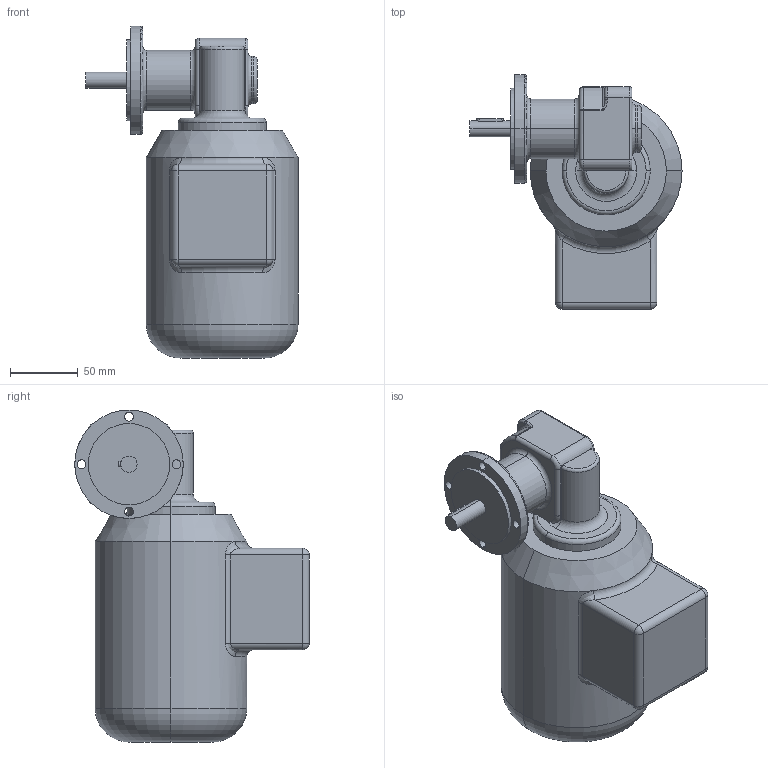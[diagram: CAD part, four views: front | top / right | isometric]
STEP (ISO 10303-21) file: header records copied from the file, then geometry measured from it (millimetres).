
FILE_DESCRIPTION (( 'STEP AP203' ), '1' );
FILE_NAME ('SN5FL-90,120W-C.STEP', '2007-09-13T06:14:44', ( ' ' ), ( ' ' ), 'SwSTEP 2.0', 'SolidWorks 2006233', '' );
FILE_SCHEMA (( 'CONFIG_CONTROL_DESIGN' ));
Length unit declared in the file: millimetre
Products named in the file (3): SN5FL_Standard; BG56of_Standard; SN5FL-90,120W-C
Assembly tree (2 placements, depth 2):
  SN5FL-90,120W-C
    BG56of_Standard
    SN5FL_Standard
Bounding box: 156.5 x 173 x 245 mm (x, y, z)
Volume: 2171942.6 mm3; surface area: 125197.3 mm2
Topology: 2 solids, 2 shells, 140 faces, 325 edges, 183 vertices
Faces by surface type: cylinder 60, torus 35, plane 27, bspline 12, sphere 4, cone 2
Entity records: 5447 total; most frequent: CARTESIAN_POINT 2016, DIRECTION 710, ORIENTED_EDGE 634, EDGE_CURVE 317, AXIS2_PLACEMENT_3D 305, VERTEX_POINT 183, CIRCLE 172, EDGE_LOOP 150
